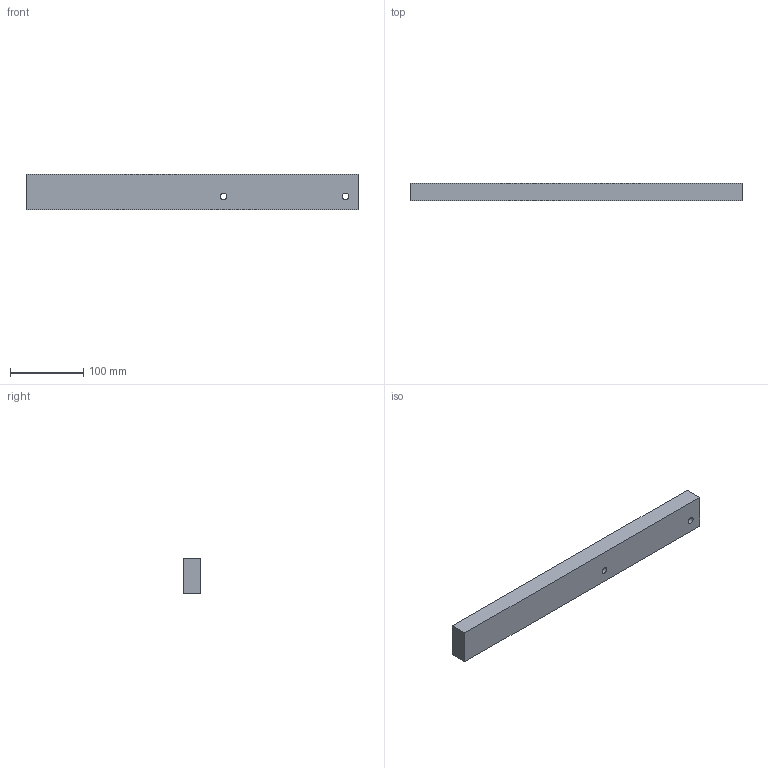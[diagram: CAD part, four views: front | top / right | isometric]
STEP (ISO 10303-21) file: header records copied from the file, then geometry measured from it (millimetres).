
FILE_DESCRIPTION (( 'STEP AP203' ), '1' );
FILE_NAME ('Tasseau_452_Parois.STEP', '2026-06-24T07:29:48', ( '' ), ( '' ), 'SwSTEP 2.0', 'SolidWorks 2024', '' );
FILE_SCHEMA (( 'CONFIG_CONTROL_DESIGN' ));
Length unit declared in the file: millimetre
Products named in the file (1): Tasseau_452_Parois
Bounding box: 452 x 24 x 48 mm (x, y, z)
Volume: 517650.4 mm3; surface area: 68494.7 mm2
Topology: 1 solids, 1 shells, 8 faces, 18 edges, 12 vertices
Faces by surface type: plane 6, cylinder 2
Full cylindrical faces by diameter (mm): 9 x2
Entity records: 299 total; most frequent: DIRECTION 38, CARTESIAN_POINT 37, ORIENTED_EDGE 32, EDGE_CURVE 16, EDGE_LOOP 14, AXIS2_PLACEMENT_3D 13, LINE 12, VERTEX_POINT 12
